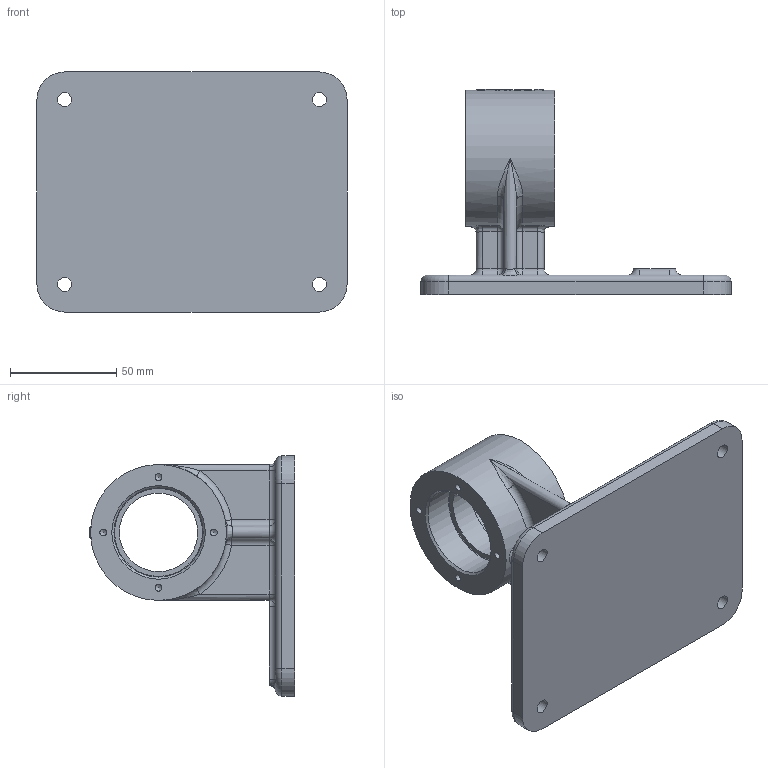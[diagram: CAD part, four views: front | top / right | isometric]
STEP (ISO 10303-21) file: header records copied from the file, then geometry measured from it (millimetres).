
FILE_DESCRIPTION(/* description */ (''),/* implementation_level */ '2;1');
FILE_NAME(/* name */ '',/* time_stamp */ '2024-04-09T15:31:09+09:00',/* author */ ('jhkim'),/* organization */ (''),/* preprocessor_version */ 'ST-DEVELOPER v20',/* originating_system */ 'Autodesk Inventor 2025',/* authorisation */ '');
FILE_SCHEMA (('AUTOMOTIVE_DESIGN { 1 0 10303 214 3 1 1 }'));
Length unit declared in the file: millimetre
Products named in the file (1): 본체
Bounding box: 146 x 96.5 x 113 mm (x, y, z)
Volume: 240834.7 mm3; surface area: 60050.6 mm2
Topology: 1 solids, 1 shells, 326 faces, 867 edges, 552 vertices
Faces by surface type: plane 124, bspline 85, cylinder 76, torus 19, cone 14, sphere 8
Full cylindrical faces by diameter (mm): 3 x2, 3.242 x10, 6.6 x4, 18 x4, 37 x1, 42 x2, 64 x1
Entity records: 11911 total; most frequent: CARTESIAN_POINT 4164, ORIENTED_EDGE 1702, DIRECTION 1431, EDGE_CURVE 851, VERTEX_POINT 552, AXIS2_PLACEMENT_3D 516, LINE 399, VECTOR 399
